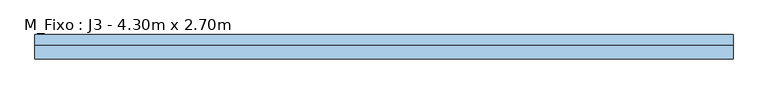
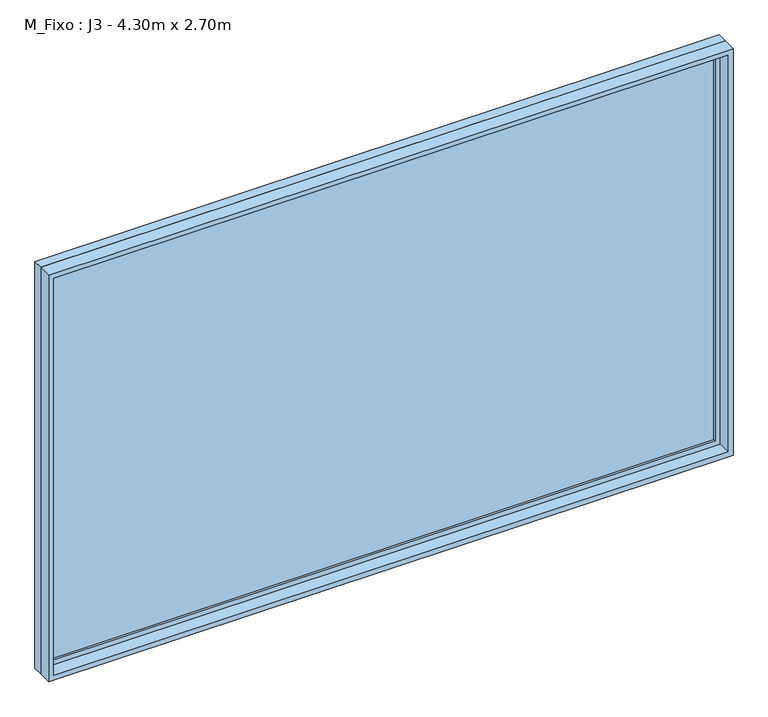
"""IFC4 building model written with IfcOpenShell, lengths in millimetres: window geometry, M_Fixo : J3 - 4.30m x 2.70m."""

import ifcopenshell
import ifcopenshell.guid

model = None  # the IFC model being written
_history = None  # IfcOwnerHistory: only IFC2X3 demands one
_inside = {}  # id of a spatial element -> (the spatial element, [elements in it])
_under = {}  # id of a project, library or spatial element -> (it, [spatial elements below it])
_declared = {}  # id of a project -> (the project, [libraries it declares])
_typed = {}  # id of a type object -> (the type object, [elements of that type])
_made_of = {}  # id of a material, layer set ... -> (it, [elements and type objects made of it])


def new_model(schema):
    """Start an empty IFC model of exactly this schema.

    Asked for "IFC4X3", IfcOpenShell would pick the latest addendum, in which some entities
    have other attributes; the version numbers below select the first issue.
    IFC2X3 requires an IfcOwnerHistory on every rooted entity: one is made here for all.
    """
    global model, _history
    if schema == "IFC4X3":
        model = ifcopenshell.file(schema_version=(4, 3, 0, 0))
    else:
        model = ifcopenshell.file(schema=schema)
    _inside.clear()
    _under.clear()
    _declared.clear()
    _typed.clear()
    _made_of.clear()
    _history = None
    if model.schema == "IFC2X3":
        org = make("IfcOrganization", Name="unknown")
        user = make(
            "IfcPersonAndOrganization",
            ThePerson=make("IfcPerson", FamilyName="unknown"),
            TheOrganization=org,
        )
        app = make(
            "IfcApplication",
            ApplicationDeveloper=org,
            Version="unknown",
            ApplicationFullName="unknown",
            ApplicationIdentifier="unknown",
        )
        _history = make(
            "IfcOwnerHistory",
            OwningUser=user,
            OwningApplication=app,
            ChangeAction="ADDED",
            CreationDate=0,
        )
    return model


def make(cls, **values):
    """One entity of the class cls with the attributes given. An attribute that is None is left unset."""
    return model.create_entity(
        cls, **{name: value for name, value in values.items() if value is not None}
    )


def rooted(cls, **values):
    """An entity with a GlobalId (a new one), such as an element, a storey or a relation."""
    return make(cls, GlobalId=ifcopenshell.guid.new(), OwnerHistory=_history, **values)


def si_unit(unit_type, name, prefix=None):
    """IfcSIUnit, for example si_unit("LENGTHUNIT", "METRE", prefix="MILLI")."""
    return make("IfcSIUnit", UnitType=unit_type, Prefix=prefix, Name=name)


def assignment(units):
    """IfcUnitAssignment: the units of a project."""
    return None if units is None else make("IfcUnitAssignment", Units=units)


def point(xyz):
    """IfcCartesianPoint."""
    return None if xyz is None else make("IfcCartesianPoint", Coordinates=xyz)


def direction(xyz):
    """IfcDirection."""
    return None if xyz is None else make("IfcDirection", DirectionRatios=xyz)


def frame(location, z_axis=None, x_axis=None):
    """IfcAxis2Placement3D, a coordinate frame: its origin and axes. An axis left out is left unset."""
    return make(
        "IfcAxis2Placement3D",
        Location=point(location),
        Axis=direction(z_axis),
        RefDirection=direction(x_axis),
    )


def origin():
    """The frame at (0, 0, 0) with its axes left unset."""
    return frame((0.0, 0.0, 0.0))


def place(relative_to, where):
    """IfcLocalPlacement: puts the frame where relative to a parent placement (None: the world)."""
    return make(
        "IfcLocalPlacement", PlacementRelTo=relative_to, RelativePlacement=where
    )


def context(
    kind, dimensions, precision=None, world=None, true_north=None, identifier=None
):
    """IfcGeometricRepresentationContext, for example the 3D "Model" context."""
    return make(
        "IfcGeometricRepresentationContext",
        ContextIdentifier=identifier,
        ContextType=kind,
        CoordinateSpaceDimension=dimensions,
        Precision=precision,
        WorldCoordinateSystem=world,
        TrueNorth=true_north,
    )


def project(units=None, contexts=None):
    """IfcProject with its units and contexts."""
    return rooted(
        "IfcProject",
        Name="project",
        RepresentationContexts=contexts,
        UnitsInContext=assignment(units),
    )


def spatial(cls, under=None, at=None, **own):
    """A site, building, storey or space (cls), placed at a placement, below another one or the project."""
    s = rooted(cls, ObjectPlacement=at, **own)
    if under is not None:
        _under.setdefault(under.id(), (under, []))[1].append(s)
    return s


def polyline(points):
    """IfcPolyline through the points."""
    return make("IfcPolyline", Points=[point(p) for p in points])


def outline(outer, holes=None, kind="AREA"):
    """IfcArbitraryClosedProfileDef: a profile drawn as a closed curve; with holes, ...WithVoids."""
    if holes is None:
        return make("IfcArbitraryClosedProfileDef", ProfileType=kind, OuterCurve=outer)
    return make(
        "IfcArbitraryProfileDefWithVoids",
        ProfileType=kind,
        OuterCurve=outer,
        InnerCurves=holes,
    )


def extrude(swept, where, along, depth):
    """IfcExtrudedAreaSolid: the profile swept, set in the frame where, extruded along a direction by depth."""
    return make(
        "IfcExtrudedAreaSolid",
        SweptArea=swept,
        Position=where,
        ExtrudedDirection=direction(along),
        Depth=depth,
    )


def shape(context_of_items, identifier, shape_type, items):
    """IfcShapeRepresentation: the items that make up one representation, for example the "Body"."""
    return make(
        "IfcShapeRepresentation",
        ContextOfItems=context_of_items,
        RepresentationIdentifier=identifier,
        RepresentationType=shape_type,
        Items=items,
    )


def source(mapping_origin, context_of_items, identifier, shape_type, items):
    """IfcRepresentationMap: a shape defined once, which mapped items show again and again."""
    return make(
        "IfcRepresentationMap",
        MappingOrigin=mapping_origin,
        MappedRepresentation=shape(context_of_items, identifier, shape_type, items),
    )


def transform(
    local_origin,
    x_axis=None,
    y_axis=None,
    z_axis=None,
    scale=None,
    scale2=None,
    scale3=None,
    uniform=True,
):
    """IfcCartesianTransformationOperator3D, or its non-uniform kind. x_axis, y_axis, z_axis: its Axis1, 2, 3."""
    if uniform:
        return make(
            "IfcCartesianTransformationOperator3D",
            Axis1=direction(x_axis),
            Axis2=direction(y_axis),
            LocalOrigin=point(local_origin),
            Scale=scale,
            Axis3=direction(z_axis),
        )
    return make(
        "IfcCartesianTransformationOperator3DnonUniform",
        Axis1=direction(x_axis),
        Axis2=direction(y_axis),
        LocalOrigin=point(local_origin),
        Scale=scale,
        Axis3=direction(z_axis),
        Scale2=scale2,
        Scale3=scale3,
    )


def mapped(mapping_source, mapping_target):
    """IfcMappedItem: shows the shape of a source again, moved by a transform."""
    return make(
        "IfcMappedItem", MappingSource=mapping_source, MappingTarget=mapping_target
    )


def made_of(thing, what):
    """Note that an element or type object is made of a material, layer set ...; save() writes the relation."""
    if what is not None:
        _made_of.setdefault(what.id(), (what, []))[1].append(thing)
    return thing


def element(
    cls,
    number,
    at=None,
    inside=None,
    cuts=None,
    type_object=None,
    material=None,
    context=None,
    identifier="Body",
    shape_type=None,
    held_by="IfcProductDefinitionShape",
    body=None,
    shapes=None,
    **own,
):
    """One element of the class cls, such as IfcWall. Its Tag is "e" and its number.

    at: its placement. inside: the storey or other place that contains it. cuts: it is an
    opening in that element (IfcRelVoidsElement). A single representation is given by context,
    identifier, shape_type and body (its items); several are given by shapes. held_by: the class
    of the entity that holds the representations. save() writes the other relations.
    """
    e = rooted(cls, Tag="e%d" % number, ObjectPlacement=at, **own)
    if body is not None:
        shapes = [shape(context, identifier, shape_type, body)]
    if shapes is not None:
        e.Representation = make(held_by, Representations=shapes)
    if inside is not None:
        _inside.setdefault(inside.id(), (inside, []))[1].append(e)
    if cuts is not None:
        rooted(
            "IfcRelVoidsElement", RelatingBuildingElement=cuts, RelatedOpeningElement=e
        )
    if type_object is not None:
        _typed.setdefault(type_object.id(), (type_object, []))[1].append(e)
    return made_of(e, material)


def aggregate(whole, parts):
    """IfcRelAggregates: a whole, such as a stair, and the parts it consists of."""
    return rooted("IfcRelAggregates", RelatingObject=whole, RelatedObjects=parts)


def save(model, path):
    """Write the relations noted so far, then the file.

    IfcRelAggregates (storeys below a building ...), IfcRelContainedInSpatialStructure (elements
    in a storey), IfcRelDefinesByType, IfcRelAssociatesMaterial and IfcRelDeclares: one each for
    every whole, place, type object, material and project.
    """
    for whole, parts in _under.values():
        aggregate(whole, parts)
    for where, things in _inside.values():
        rooted(
            "IfcRelContainedInSpatialStructure",
            RelatedElements=things,
            RelatingStructure=where,
        )
    for kind, things in _typed.values():
        rooted("IfcRelDefinesByType", RelatedObjects=things, RelatingType=kind)
    for what, things in _made_of.values():
        rooted("IfcRelAssociatesMaterial", RelatedObjects=things, RelatingMaterial=what)
    for by, libraries in _declared.values():
        rooted("IfcRelDeclares", RelatingContext=by, RelatedDefinitions=libraries)
    model.write(path)


def m_fixo_j3_4_30m_x_2_70m_9528c059(model_context):
    return source(origin(), model_context, "Body", "SweptSolid", [
        extrude(outline(polyline([(-2087.0, 53.0), (2087.0, 53.0), (2087.0, 41.0), (-2087.0, 41.0), (-2087.0, 53.0)])), frame((0.0, 0.0, 978.0), z_axis=(0.0, 0.0, 1.0), x_axis=(1.0, 0.0, 0.0)), (0.0, 0.0, 1.0), 2574.0),
        extrude(outline(polyline([(3596.0, -2131.0), (934.0, -2131.0), (934.0, 2131.0), (3596.0, 2131.0), (3596.0, -2131.0)]), holes=[polyline([(3552.0, -2087.0), (3552.0, 2087.0), (978.0, 2087.0), (978.0, -2087.0), (3552.0, -2087.0)])]), frame((0.0, 25.0, 0.0), z_axis=(0.0, 1.0, 0.0), x_axis=(0.0, 0.0, 1.0)), (0.0, 0.0, 1.0), 44.0),
        extrude(outline(polyline([(3615.0, -2150.0), (915.0, -2150.0), (915.0, 2150.0), (3615.0, 2150.0), (3615.0, -2150.0)]), holes=[polyline([(3596.0, -2131.0), (3596.0, 2131.0), (934.0, 2131.0), (934.0, -2131.0), (3596.0, -2131.0)])]), frame((0.0, 25.0, 0.0), z_axis=(0.0, 1.0, 0.0), x_axis=(0.0, 0.0, 1.0)), (0.0, 0.0, 1.0), 63.0),
        extrude(outline(polyline([(3615.0, -2150.0), (915.0, -2150.0), (915.0, 2150.0), (3615.0, 2150.0), (3615.0, -2150.0)]), holes=[polyline([(3583.0, -2118.0), (3583.0, 2118.0), (947.0, 2118.0), (947.0, -2118.0), (3583.0, -2118.0)])]), frame((0.0, -62.0, 0.0), z_axis=(0.0, 1.0, 0.0), x_axis=(0.0, 0.0, 1.0)), (0.0, 0.0, 1.0), 87.0),
    ])


if __name__ == "__main__":
    model = new_model("IFC4")
    model_context = context("Model", 3, world=origin())
    ifc_project = project(units=[si_unit("LENGTHUNIT", "METRE", prefix="MILLI")], contexts=[model_context])
    site = spatial("IfcSite", under=ifc_project)
    building = spatial("IfcBuilding", under=site)
    placement = place(None, origin())
    m_fixo_j3_4_30m_x_2_70m_shape = m_fixo_j3_4_30m_x_2_70m_9528c059(model_context)
    element("IfcWindow", 1, ObjectType="M_Fixo : J3 - 4.30m x 2.70m", at=placement, inside=building, context=model_context, shape_type="MappedRepresentation", body=[
        mapped(m_fixo_j3_4_30m_x_2_70m_shape, transform((0.0, 0.0, 0.0), x_axis=(1.0, 0.0, 0.0), y_axis=(0.0, 1.0, 0.0), z_axis=(0.0, 0.0, 1.0))),
    ])
    save(model, "model.ifc")
